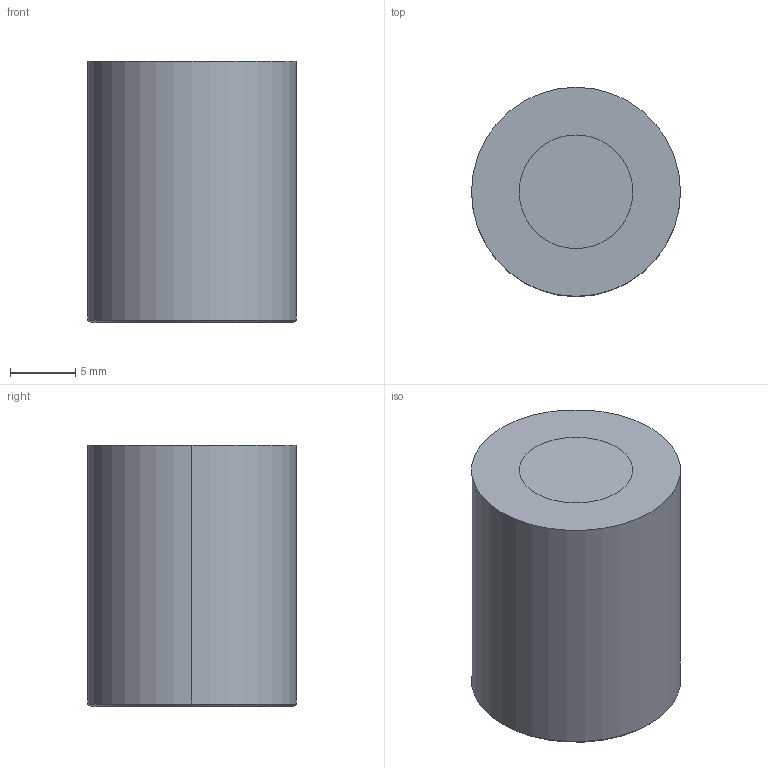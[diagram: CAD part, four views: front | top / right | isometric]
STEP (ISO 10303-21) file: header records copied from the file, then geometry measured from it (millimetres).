
FILE_DESCRIPTION (( 'STEP AP214' ), '1' );
FILE_NAME ('BruyRubio_Blank-16S.STEP', '2019-12-19T17:23:13', ( '' ), ( '' ), 'SwSTEP 2.0', 'SolidWorks 2017', '' );
FILE_SCHEMA (( 'AUTOMOTIVE_DESIGN' ));
Length unit declared in the file: millimetre
Products named in the file (1): BruyRubio_Blank-16S
Bounding box: 16 x 16 x 20 mm (x, y, z)
Volume: 3448.3 mm3; surface area: 2296.2 mm2
Topology: 2 solids, 2 shells, 18 faces, 34 edges, 22 vertices
Faces by surface type: cylinder 10, plane 6, cone 2
Entity records: 709 total; most frequent: DIRECTION 94, CARTESIAN_POINT 75, ORIENTED_EDGE 68, AXIS2_PLACEMENT_3D 41, EDGE_CURVE 34, CIRCLE 22, UNCERTAINTY_MEASURE_WITH_UNIT 22, EDGE_LOOP 22
